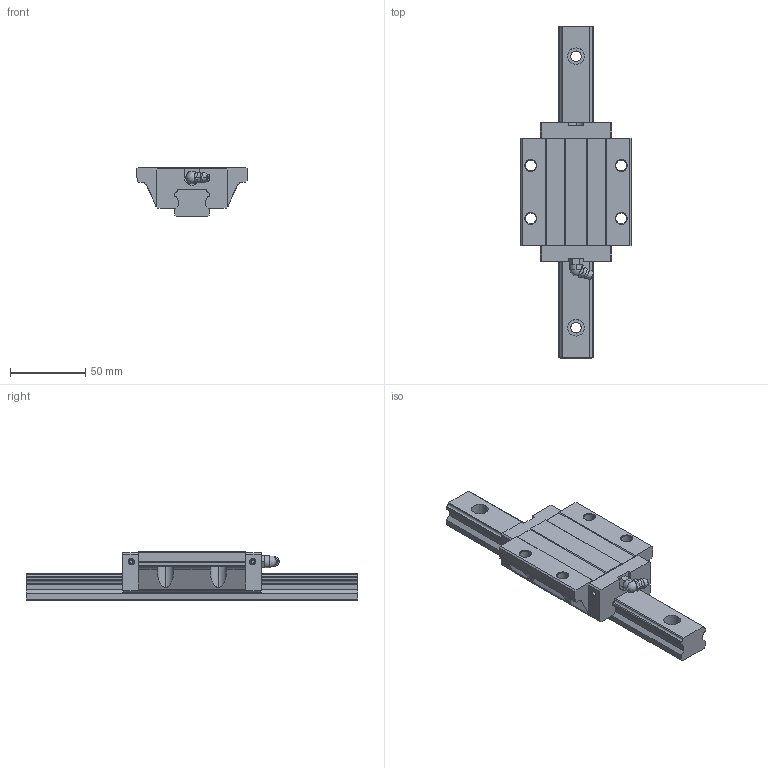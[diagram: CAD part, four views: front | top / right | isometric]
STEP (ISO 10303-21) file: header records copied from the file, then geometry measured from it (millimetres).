
FILE_DESCRIPTION((''),'1');
FILE_NAME(' ',' ',(''),(''),'ACIS Interop R16','Kubotek KeyCreator V6.5.2 (0407)',' ');
FILE_SCHEMA(('CONFIG_CONTROL_DESIGN'));
Length unit declared in the file: millimetre
Products named in the file (3): 1; 2; 3
Bounding box: 73 x 220 x 33 mm (x, y, z)
Volume: 117647 mm3; surface area: 42472.1 mm2
Topology: 2 solids, 48 shells, 238 faces, 765 edges, 587 vertices
Faces by surface type: plane 117, cylinder 88, cone 18, torus 10, sphere 3, bspline 2
Entity records: 8820 total; most frequent: CARTESIAN_POINT 1795, DIRECTION 1518, ORIENTED_EDGE 1266, EDGE_CURVE 763, VERTEX_POINT 587, AXIS2_PLACEMENT_3D 538, LINE 442, VECTOR 442
